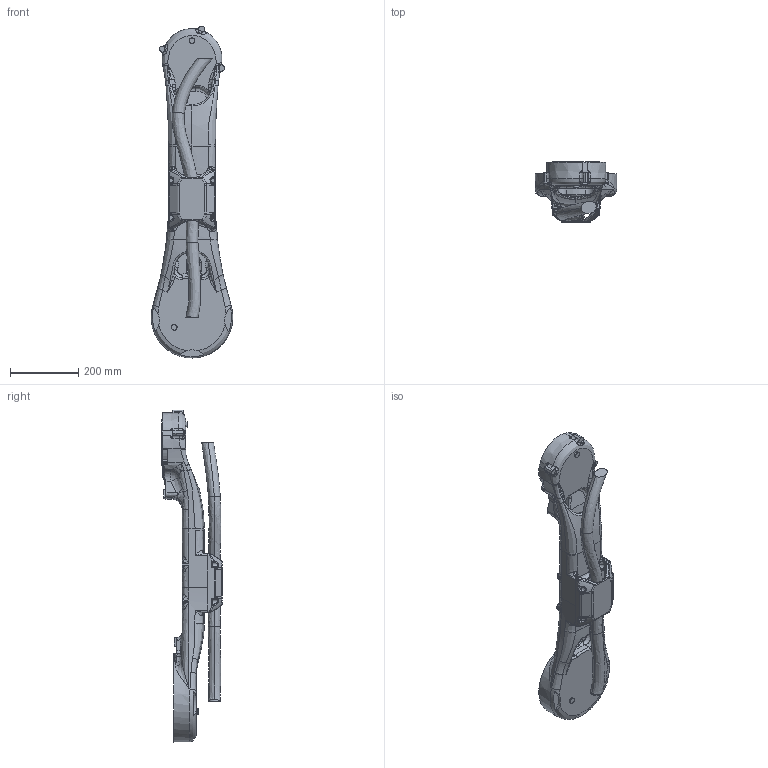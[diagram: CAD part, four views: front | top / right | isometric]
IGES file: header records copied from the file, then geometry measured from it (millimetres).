
Start section:  PTC IGES file: l_axis.igs
Global section: file name: l_axis.igs; native system: Creo Parametric by Parametric Technology Corporation; preprocessor: 2014000; author: Miyoshi_Nozomi; organization: Unknown; date: 20170720.145849; units: millimetre
Bounding box: 239.84 x 178 x 975.78 mm (x, y, z)
Volume: 8461254.4 mm3; surface area: 734435.4 mm2
Topology: 1 solids, 1 shells, 925 faces, 2256 edges, 1337 vertices
Faces by surface type: bspline 543, revolution 382
